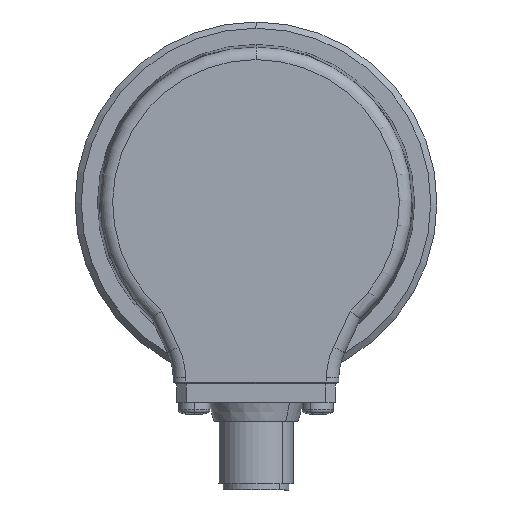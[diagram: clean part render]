
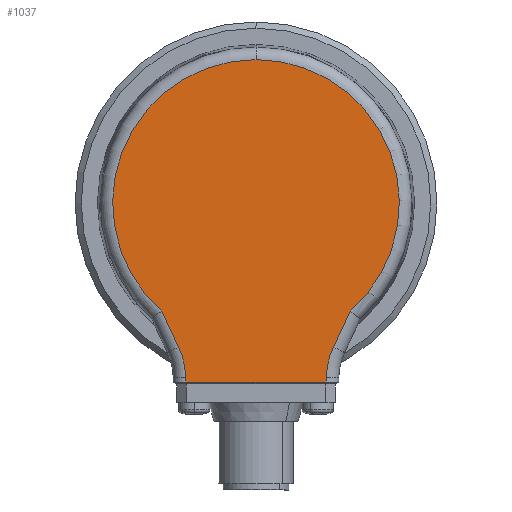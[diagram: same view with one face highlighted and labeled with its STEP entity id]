
A CAD part, left-side view. The second image highlights one B-rep face of the part: STEP entity #1037.
In plain terms, the highlighted planar face has unit normal (-1, 0, 0).
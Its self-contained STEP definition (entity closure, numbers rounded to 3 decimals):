
#625 = EDGE_CURVE ( 'NONE', #626, #628, #6935, .T. ) ;
#626 = VERTEX_POINT ( 'NONE', #6931 ) ;
#628 = VERTEX_POINT ( 'NONE', #6930 ) ;
#1019 = ORIENTED_EDGE ( 'NONE', *, *, #1020, .T. ) ;
#1020 = EDGE_CURVE ( 'NONE', #1045, #1021, #8218, .T. ) ;
#1021 = VERTEX_POINT ( 'NONE', #8214 ) ;
#1022 = ORIENTED_EDGE ( 'NONE', *, *, #1023, .T. ) ;
#1023 = EDGE_CURVE ( 'NONE', #1021, #1024, #8213, .T. ) ;
#1024 = VERTEX_POINT ( 'NONE', #8208 ) ;
#1025 = ORIENTED_EDGE ( 'NONE', *, *, #1026, .T. ) ;
#1026 = EDGE_CURVE ( 'NONE', #1024, #1027, #8207, .T. ) ;
#1027 = VERTEX_POINT ( 'NONE', #8203 ) ;
#1028 = ORIENTED_EDGE ( 'NONE', *, *, #1029, .T. ) ;
#1029 = EDGE_CURVE ( 'NONE', #1027, #626, #7962, .T. ) ;
#1030 = ORIENTED_EDGE ( 'NONE', *, *, #625, .T. ) ;
#1031 = ORIENTED_EDGE ( 'NONE', *, *, #1087, .T. ) ;
#1037 = ADVANCED_FACE ( 'NONE', ( #8238 ), #8281, .F. ) ;
#1038 = EDGE_LOOP ( 'NONE', ( #1039, #1043, #1019, #1022, #1025, #1028, #1030, #1031, #1089 ) ) ;
#1039 = ORIENTED_EDGE ( 'NONE', *, *, #1040, .T. ) ;
#1040 = EDGE_CURVE ( 'NONE', #1041, #1042, #8275, .T. ) ;
#1041 = VERTEX_POINT ( 'NONE', #8271 ) ;
#1042 = VERTEX_POINT ( 'NONE', #8269 ) ;
#1043 = ORIENTED_EDGE ( 'NONE', *, *, #1044, .T. ) ;
#1044 = EDGE_CURVE ( 'NONE', #1042, #1045, #8268, .T. ) ;
#1045 = VERTEX_POINT ( 'NONE', #8264 ) ;
#1087 = EDGE_CURVE ( 'NONE', #628, #1088, #8391, .T. ) ;
#1088 = VERTEX_POINT ( 'NONE', #8387 ) ;
#1089 = ORIENTED_EDGE ( 'NONE', *, *, #1090, .T. ) ;
#1090 = EDGE_CURVE ( 'NONE', #1088, #1041, #8385, .T. ) ;
#6930 = CARTESIAN_POINT ( 'NONE',  ( -21., 15.091, -17.32 ) ) ;
#6931 = CARTESIAN_POINT ( 'NONE',  ( -21., 0., 22.972 ) ) ;
#6932 = DIRECTION ( 'NONE',  ( 0., 0., 1. ) ) ;
#6933 = DIRECTION ( 'NONE',  ( -1., 0., 0. ) ) ;
#6934 = AXIS2_PLACEMENT_3D ( 'NONE', #6939, #6933, #6932 ) ;
#6935 = CIRCLE ( 'NONE', #6934, 22.972 ) ;
#6939 = CARTESIAN_POINT ( 'NONE',  ( -21., 0., 0. ) ) ;
#7725 = AXIS2_PLACEMENT_3D ( 'NONE', #7731, #8257, #8256 ) ;
#7731 = CARTESIAN_POINT ( 'NONE',  ( -21., 0., 0. ) ) ;
#7962 = CIRCLE ( 'NONE', #7725, 22.972 ) ;
#8203 = CARTESIAN_POINT ( 'NONE',  ( -21., -15.091, -17.32 ) ) ;
#8204 = DIRECTION ( 'NONE',  ( 0., -0.423, 0.906 ) ) ;
#8205 = VECTOR ( 'NONE', #8204, 1000. ) ;
#8206 = CARTESIAN_POINT ( 'NONE',  ( -21., -14.953, -17.615 ) ) ;
#8207 = LINE ( 'NONE', #8206, #8205 ) ;
#8208 = CARTESIAN_POINT ( 'NONE',  ( -21., -12.39, -23.112 ) ) ;
#8209 = DIRECTION ( 'NONE',  ( 0., 0., 1. ) ) ;
#8210 = DIRECTION ( 'NONE',  ( 1., 0., 0. ) ) ;
#8211 = CARTESIAN_POINT ( 'NONE',  ( -21., -23.266, -28.183 ) ) ;
#8212 = AXIS2_PLACEMENT_3D ( 'NONE', #8211, #8210, #8209 ) ;
#8213 = CIRCLE ( 'NONE', #8212, 12. ) ;
#8214 = CARTESIAN_POINT ( 'NONE',  ( -21., -11.268, -27.974 ) ) ;
#8215 = DIRECTION ( 'NONE',  ( 0., -0.017, 1. ) ) ;
#8216 = VECTOR ( 'NONE', #8215, 1000. ) ;
#8217 = CARTESIAN_POINT ( 'NONE',  ( -21., -11.752, -0.205 ) ) ;
#8218 = LINE ( 'NONE', #8217, #8216 ) ;
#8238 = FACE_OUTER_BOUND ( 'NONE', #1038, .T. ) ;
#8256 = DIRECTION ( 'NONE',  ( 0., 0., 1. ) ) ;
#8257 = DIRECTION ( 'NONE',  ( -1., 0., 0. ) ) ;
#8264 = CARTESIAN_POINT ( 'NONE',  ( -21., -11.255, -28.695 ) ) ;
#8265 = DIRECTION ( 'NONE',  ( 0., -1., 0. ) ) ;
#8266 = VECTOR ( 'NONE', #8265, 1000. ) ;
#8267 = CARTESIAN_POINT ( 'NONE',  ( -21., -11.25, -28.695 ) ) ;
#8268 = LINE ( 'NONE', #8267, #8266 ) ;
#8269 = CARTESIAN_POINT ( 'NONE',  ( -21., 11.255, -28.695 ) ) ;
#8271 = CARTESIAN_POINT ( 'NONE',  ( -21., 11.268, -27.974 ) ) ;
#8272 = DIRECTION ( 'NONE',  ( 0., -0.017, -1. ) ) ;
#8273 = VECTOR ( 'NONE', #8272, 1000. ) ;
#8274 = CARTESIAN_POINT ( 'NONE',  ( -21., 11.752, -0.205 ) ) ;
#8275 = LINE ( 'NONE', #8274, #8273 ) ;
#8276 = DIRECTION ( 'NONE',  ( 0., 0., 1. ) ) ;
#8277 = DIRECTION ( 'NONE',  ( 1., 0., 0. ) ) ;
#8278 = CARTESIAN_POINT ( 'NONE',  ( -21., 0., 0. ) ) ;
#8279 = AXIS2_PLACEMENT_3D ( 'NONE', #8278, #8277, #8276 ) ;
#8281 = PLANE ( 'NONE',  #8279 ) ;
#8382 = DIRECTION ( 'NONE',  ( 1., 0., 0. ) ) ;
#8383 = CARTESIAN_POINT ( 'NONE',  ( -21., 23.266, -28.183 ) ) ;
#8384 = AXIS2_PLACEMENT_3D ( 'NONE', #8383, #8382, #8433 ) ;
#8385 = CIRCLE ( 'NONE', #8384, 12. ) ;
#8387 = CARTESIAN_POINT ( 'NONE',  ( -21., 12.39, -23.112 ) ) ;
#8388 = DIRECTION ( 'NONE',  ( 0., -0.423, -0.906 ) ) ;
#8389 = VECTOR ( 'NONE', #8388, 1000. ) ;
#8390 = CARTESIAN_POINT ( 'NONE',  ( -21., 12.39, -23.112 ) ) ;
#8391 = LINE ( 'NONE', #8390, #8389 ) ;
#8433 = DIRECTION ( 'NONE',  ( 0., 0., 1. ) ) ;
